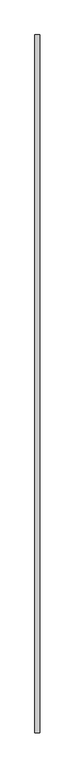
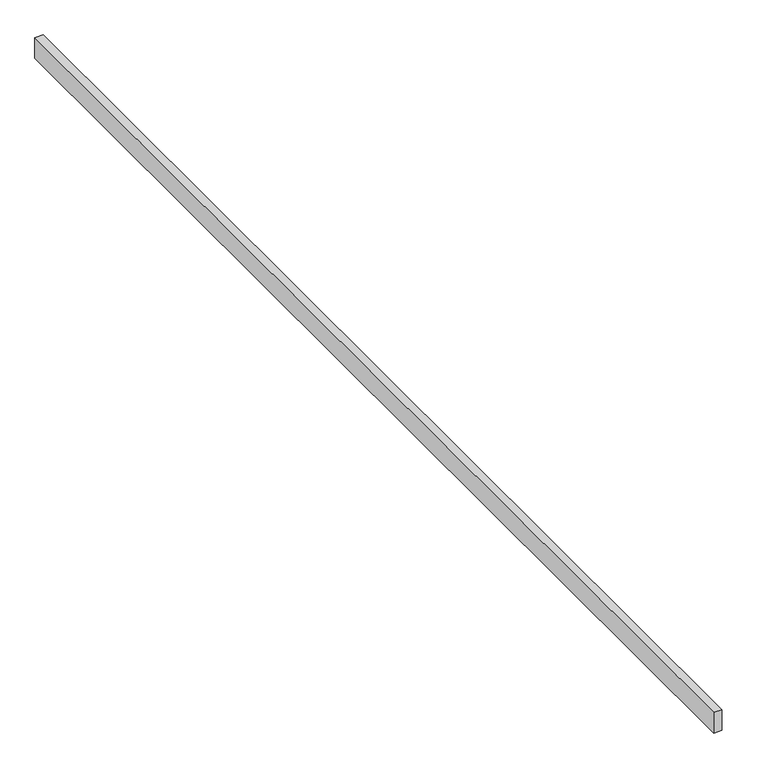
"""IFC4 building model written with IfcOpenShell, lengths in millimetres: proxy geometry, Modelos genéricos 64 : Modelos genéricos 1."""

from ifc_helpers import new_model, si_unit, frame, origin, place, context, project, spatial, polyline, outline, extrude, source, transform, mapped, element, save


def generic_models_c1434fa9(model_context):
    return source(origin(), model_context, "Body", "SweptSolid", [
        extrude(outline(polyline([(-1726.5527533, 6228.6238165), (-1666.5527533, 6228.6238165), (-1666.5527533, -2331.3761835), (-1726.5527533, -2331.3761835), (-1726.5527533, 6228.6238165)])), frame((0.0, 0.0, 3000.0), z_axis=(0.0, 0.0, 1.0), x_axis=(1.0, 0.0, 0.0)), (0.0, 0.0, 1.0), 160.0),
    ])


if __name__ == "__main__":
    model = new_model("IFC4")
    model_context = context("Model", 3, world=origin())
    ifc_project = project(units=[si_unit("LENGTHUNIT", "METRE", prefix="MILLI")], contexts=[model_context])
    site = spatial("IfcSite", under=ifc_project)
    building = spatial("IfcBuilding", under=site)
    placement = place(None, origin())
    generic_models_shape = generic_models_c1434fa9(model_context)
    element("IfcBuildingElementProxy", 1, Name="Modelos genéricos 64 : Modelos genéricos 1", ObjectType="Modelos genéricos 64 : Modelos genéricos 1", at=placement, inside=building, context=model_context, shape_type="MappedRepresentation", body=[
        mapped(generic_models_shape, transform((0.0, 0.0, 0.0), x_axis=(1.0, 0.0, 0.0), y_axis=(0.0, 1.0, 0.0), z_axis=(0.0, 0.0, 1.0))),
    ])
    save(model, "model.ifc")
